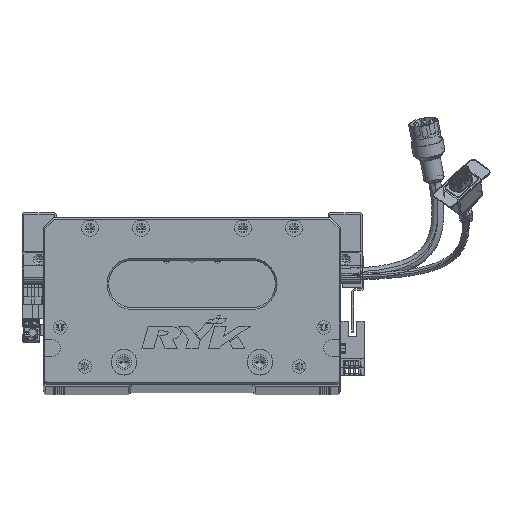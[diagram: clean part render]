
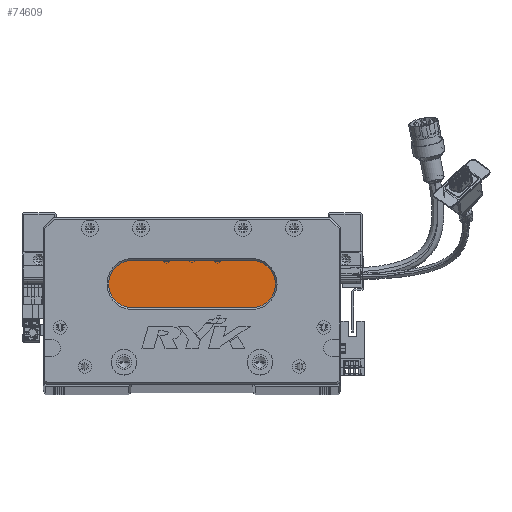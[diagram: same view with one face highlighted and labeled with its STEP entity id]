
A CAD part, top view. The second image highlights one B-rep face of the part: STEP entity #74609.
In plain terms, the highlighted planar face has unit normal (0, 0, 1) as drawn and (0, 0, -1) by its records, which use the part's own axes.
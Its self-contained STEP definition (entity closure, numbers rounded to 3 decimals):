
#1062 = EDGE_CURVE ( 'NONE', #80313, #102503, #28656, .T. ) ;
#4327 = LINE ( 'NONE', #111665, #14005 ) ;
#12520 = ORIENTED_EDGE ( 'NONE', *, *, #34613, .T. ) ;
#12837 = DIRECTION ( 'NONE',  ( -1., 0., 0. ) ) ;
#13717 = CARTESIAN_POINT ( 'NONE',  ( 122.5, 59., 18. ) ) ;
#13958 = CIRCLE ( 'NONE', #36812, 14. ) ;
#14005 = VECTOR ( 'NONE', #78243, 1000. ) ;
#14968 = CARTESIAN_POINT ( 'NONE',  ( 122.5, 59., 18. ) ) ;
#23399 = ORIENTED_EDGE ( 'NONE', *, *, #24689, .T. ) ;
#24689 = EDGE_CURVE ( 'NONE', #131339, #80313, #13958, .T. ) ;
#28656 = CIRCLE ( 'NONE', #67017, 14. ) ;
#29021 = DIRECTION ( 'NONE',  ( 1., 0., 0. ) ) ;
#34613 = EDGE_CURVE ( 'NONE', #124105, #45502, #58065, .T. ) ;
#35575 = DIRECTION ( 'NONE',  ( 0., 0., -1. ) ) ;
#36812 = AXIS2_PLACEMENT_3D ( 'NONE', #126946, #45734, #96738 ) ;
#37136 = ORIENTED_EDGE ( 'NONE', *, *, #58577, .T. ) ;
#42053 = CARTESIAN_POINT ( 'NONE',  ( 38.5, 59., 18. ) ) ;
#45502 = VERTEX_POINT ( 'NONE', #94775 ) ;
#45559 = CARTESIAN_POINT ( 'NONE',  ( 52.5, 73., 18. ) ) ;
#45734 = DIRECTION ( 'NONE',  ( 0., 0., -1. ) ) ;
#56064 = DIRECTION ( 'NONE',  ( -1., 0., 0. ) ) ;
#56066 = AXIS2_PLACEMENT_3D ( 'NONE', #13717, #106244, #12837 ) ;
#58065 = CIRCLE ( 'NONE', #100328, 14. ) ;
#58577 = EDGE_CURVE ( 'NONE', #102503, #124105, #99793, .T. ) ;
#62621 = CARTESIAN_POINT ( 'NONE',  ( 52.5, 45., 18. ) ) ;
#67017 = AXIS2_PLACEMENT_3D ( 'NONE', #96529, #35575, #107823 ) ;
#69210 = ORIENTED_EDGE ( 'NONE', *, *, #1062, .T. ) ;
#69854 = ORIENTED_EDGE ( 'NONE', *, *, #115110, .T. ) ;
#70627 = CARTESIAN_POINT ( 'NONE',  ( 122.5, 73., 18. ) ) ;
#74416 = CARTESIAN_POINT ( 'NONE',  ( 122.5, 73., 18. ) ) ;
#74609 = ADVANCED_FACE ( 'NONE', ( #114752 ), #85067, .T. ) ;
#78243 = DIRECTION ( 'NONE',  ( -1., 0., 0. ) ) ;
#80313 = VERTEX_POINT ( 'NONE', #42053 ) ;
#85067 = PLANE ( 'NONE',  #56066 ) ;
#87229 = DIRECTION ( 'NONE',  ( 0., 0., -1. ) ) ;
#94775 = CARTESIAN_POINT ( 'NONE',  ( 122.5, 45., 18. ) ) ;
#96529 = CARTESIAN_POINT ( 'NONE',  ( 52.5, 59., 18. ) ) ;
#96738 = DIRECTION ( 'NONE',  ( -1., 0., 0. ) ) ;
#99793 = LINE ( 'NONE', #70627, #117531 ) ;
#100328 = AXIS2_PLACEMENT_3D ( 'NONE', #14968, #87229, #56064 ) ;
#102503 = VERTEX_POINT ( 'NONE', #45559 ) ;
#106244 = DIRECTION ( 'NONE',  ( 0., 0., -1. ) ) ;
#107823 = DIRECTION ( 'NONE',  ( -1., 0., 0. ) ) ;
#109556 = EDGE_LOOP ( 'NONE', ( #12520, #69854, #23399, #69210, #37136 ) ) ;
#111665 = CARTESIAN_POINT ( 'NONE',  ( 122.5, 45., 18. ) ) ;
#114752 = FACE_OUTER_BOUND ( 'NONE', #109556, .T. ) ;
#115110 = EDGE_CURVE ( 'NONE', #45502, #131339, #4327, .T. ) ;
#117531 = VECTOR ( 'NONE', #29021, 1000. ) ;
#124105 = VERTEX_POINT ( 'NONE', #74416 ) ;
#126946 = CARTESIAN_POINT ( 'NONE',  ( 52.5, 59., 18. ) ) ;
#131339 = VERTEX_POINT ( 'NONE', #62621 ) ;
